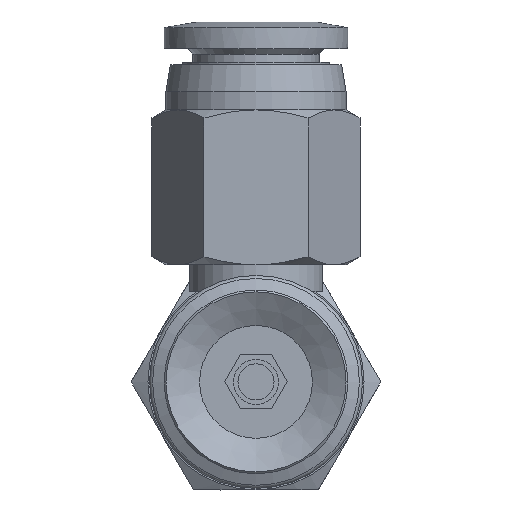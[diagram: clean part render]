
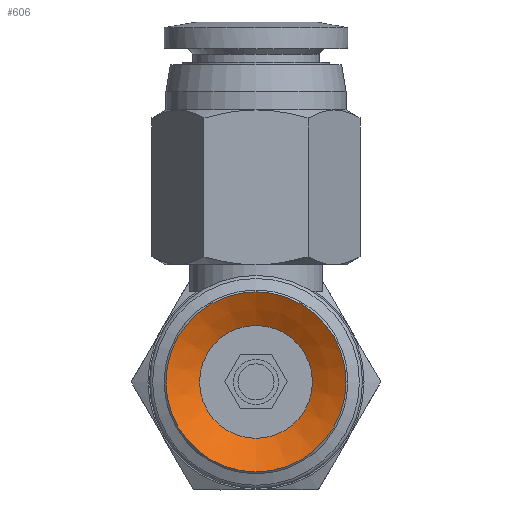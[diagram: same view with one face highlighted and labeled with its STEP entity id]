
A CAD part, front view. The second image highlights one B-rep face of the part: STEP entity #606.
In plain terms, the highlighted conical face has half-angle 60 degrees and reference radius 3.133 mm.
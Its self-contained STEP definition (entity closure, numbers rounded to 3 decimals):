
#606=ADVANCED_FACE('',(#905,#906),#907,.F.);
#905=FACE_BOUND('',#1317,.T.);
#906=FACE_OUTER_BOUND('',#1318,.T.);
#907=CONICAL_SURFACE('',#1319,3.133,1.047);
#1317=EDGE_LOOP('',(#2333));
#1318=EDGE_LOOP('',(#2334));
#1319=AXIS2_PLACEMENT_3D('',#2335,#2336,#2337);
#2333=ORIENTED_EDGE('',*,*,#2911,.F.);
#2334=ORIENTED_EDGE('',*,*,#2912,.T.);
#2335=CARTESIAN_POINT('',(0.0,7.659,0.));
#2336=DIRECTION('',(-0.0,-1.0,0.));
#2337=DIRECTION('',(0.0,0.,-1.0));
#2911=EDGE_CURVE('',#3303,#3303,#3304,.T.);
#2912=EDGE_CURVE('',#3305,#3305,#3306,.T.);
#3303=VERTEX_POINT('',#4119);
#3304=CIRCLE('',#4120,3.133);
#3305=VERTEX_POINT('',#4121);
#3306=CIRCLE('',#4122,5.0);
#4119=CARTESIAN_POINT('',(0.0,7.659,-3.133));
#4120=AXIS2_PLACEMENT_3D('',#4874,#4875,#4876);
#4121=CARTESIAN_POINT('',(0.0,6.581,-5.0));
#4122=AXIS2_PLACEMENT_3D('',#4877,#4878,#4879);
#4874=CARTESIAN_POINT('',(0.0,7.659,0.));
#4875=DIRECTION('',(0.0,-1.0,0.));
#4876=DIRECTION('',(0.0,0.,-1.0));
#4877=CARTESIAN_POINT('',(0.0,6.581,0.0));
#4878=DIRECTION('',(0.0,-1.0,0.));
#4879=DIRECTION('',(0.0,0.,-1.0));
